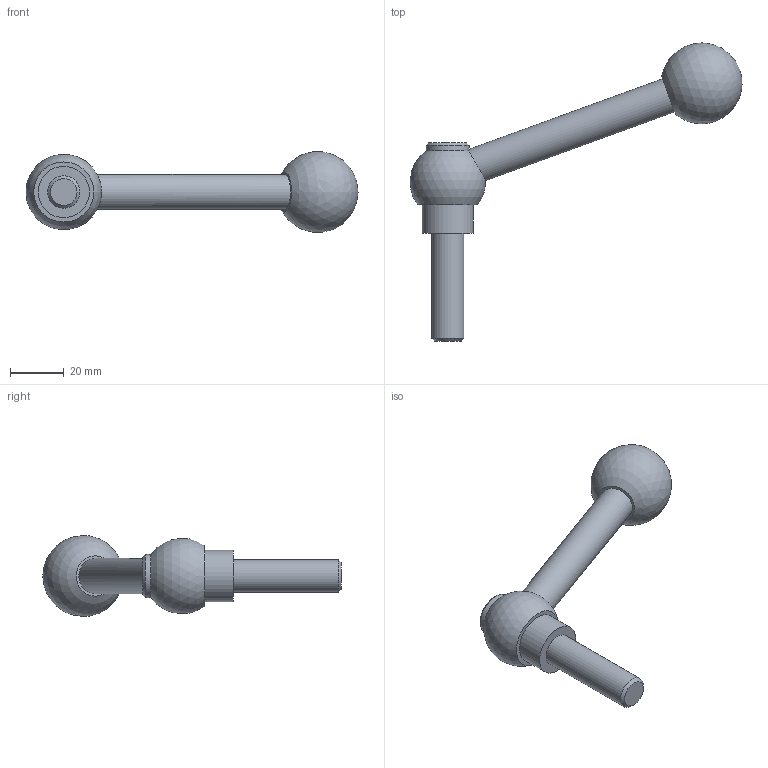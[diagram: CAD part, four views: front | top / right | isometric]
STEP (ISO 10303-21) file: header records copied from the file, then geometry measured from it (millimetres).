
FILE_DESCRIPTION( ( 'STEP AP203' ), '1' );
FILE_NAME( 'C:/Temp/Ganter_Step_05_03_2020/data/2_1/gn_6337_3/gn_6337_3_ms/gn_6337_3_ms_n/Adjustable clamping lever with bolt GN 6337.3-28-M12-40-N.stp', '2020-03-05T11:41:19', ( 'License CC BY-ND 4.0' ), ( 'CADENAS' ), ' ', 'PARTsolutions', ' ' );
FILE_SCHEMA( ( 'CONFIG_CONTROL_DESIGN' ) );
Length unit declared in the file: millimetre
Products named in the file (1): _Adjustable clamping lever with bolt GN 6337.3-28-M12-40-N
Bounding box: 122.98 x 110.49 x 29.7 mm (x, y, z)
Volume: 42020 mm3; surface area: 10203.8 mm2
Topology: 1 solids, 1 shells, 13 faces, 25 edges, 16 vertices
Faces by surface type: plane 5, cylinder 4, cone 2, sphere 2
Full cylindrical faces by diameter (mm): 12 x1, 13 x1, 15.969 x1, 19 x1
Entity records: 386 total; most frequent: CARTESIAN_POINT 124, DIRECTION 50, ORIENTED_EDGE 26, AXIS2_PLACEMENT_3D 25, EDGE_LOOP 23, FACE_OUTER_BOUND 18, ADVANCED_FACE 13, VERTEX_POINT 13
